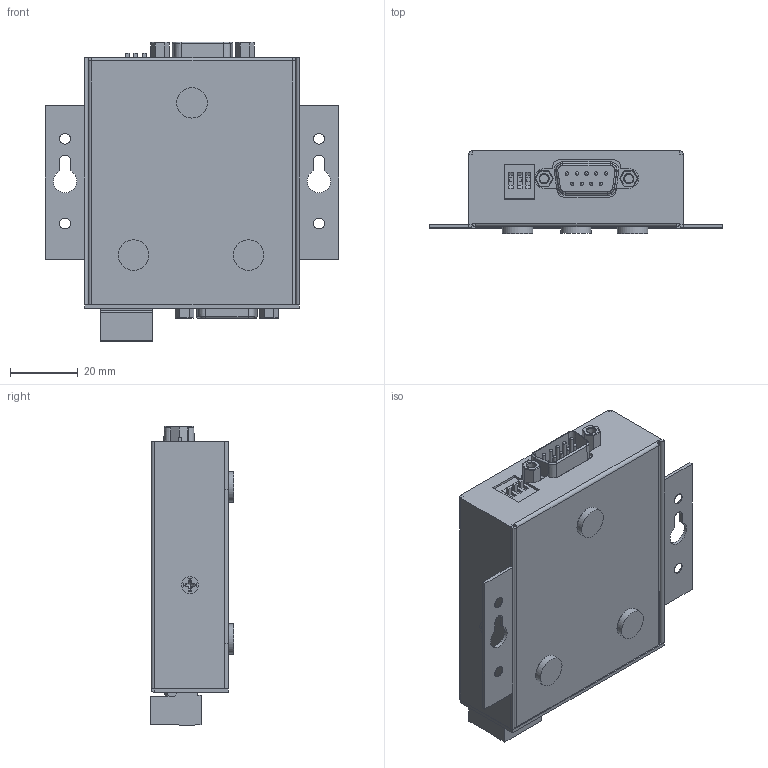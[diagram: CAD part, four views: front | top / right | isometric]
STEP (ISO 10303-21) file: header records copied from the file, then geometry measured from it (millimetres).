
FILE_DESCRIPTION(/* description */ (''),/* implementation_level */ '2;1');
FILE_NAME(/* name */ 'C:/Users/Leo Pinto/Documents/Fusion 360/CG-1P232CAN Model3D LPV1.step',/* time_stamp */ '2021-11-14T11:40:51-05:00',/* author */ (''),/* organization */ (''),/* preprocessor_version */ 'ST-DEVELOPER v18.1',/* originating_system */ 'Autodesk Translation Framework v10.10.0.1391',/* authorisation */ '');
FILE_SCHEMA (('AUTOMOTIVE_DESIGN { 1 0 10303 214 3 1 1 }'));
Products named in the file (33): CG-1P232CAN; Board; 93090A547; Top; 1801N14; Screw Terminal Block 5.08mm 2-way (1) v1; Screw Terminal Block 5.08mm 2-way (1) v1_1; Screw Terminal Block 5.08mm 2-way (1) v1_2; Component1; 3mm_LED v1; 3mm_LED; led_energy (1); led_pin.1.1.1 (1); led_pin.2.1 (1); 3mm_LED v1_1; 3mm_LED_1; led_energy (1)_1; led_pin.1.1.1 (1)_1; led_pin.2.1 (1)_1; 3mm_LED v1_2; 3mm_LED_2; led_energy (1)_2; led_energy; led_pin.1.1.1 (1)_2; led_pin.1.1.1; led_pin.2.1 (1)_2; led_pin.2.1; M3X0.5 China 120ang METRIC 18-8 SS FLAT HEAD PHIL MACHINE SCREW v2; Component22; Serial Port v1; Connector green 3 holes female v1; Connector green 3 poles Male 5.08 v1; Component34
Assembly tree (49 placements, depth 5):
  CG-1P232CAN
    Board
    93090A547  x3
    Top
    1801N14
    Screw Terminal Block 5.08mm 2-way (1) v1
      Component1  x2
    Screw Terminal Block 5.08mm 2-way (1) v1_1
      Component1  x2
    Screw Terminal Block 5.08mm 2-way (1) v1_2
      Component1  x2
    3mm_LED v1
      3mm_LED
        led_energy (1)
          led_energy
        led_pin.1.1.1 (1)
          led_pin.1.1.1
        led_pin.2.1 (1)
          led_pin.2.1
    3mm_LED v1_1
      3mm_LED_1
        led_energy (1)_1
          led_energy
        led_pin.1.1.1 (1)_1
          led_pin.1.1.1
        led_pin.2.1 (1)_1
          led_pin.2.1
    3mm_LED v1_2
      3mm_LED_2
        led_energy (1)_2
          led_energy
        led_pin.1.1.1 (1)_2
          led_pin.1.1.1
        led_pin.2.1 (1)_2
          led_pin.2.1
    M3X0.5 China 120ang METRIC 18-8 SS FLAT HEAD PHIL MACHINE SCREW v2  x2
    Component22  x3
    Serial Port v1  x2
    Connector green 3 holes female v1
    Connector green 3 poles Male 5.08 v1
    Component34
Bounding box: 86.55 x 24.64 x 88.36 mm (x, y, z)
Volume: 35545.7 mm3; surface area: 51108 mm2
Topology: 2 solids, 5 shells, 1730 faces, 4646 edges, 3013 vertices
Faces by surface type: plane 1262, cylinder 350, cone 55, torus 30, sphere 21, bspline 12
Full cylindrical faces by diameter (mm): 1 x23, 1.6 x5, 2.35 x12, 2.6 x4, 2.8 x4, 2.998 x3, 3 x20, 3.2 x4, 3.5 x5, 3.643 x3, 3.8 x5, 3.86 x2, 5.4 x3, 8.485 x3, 9 x3
Entity records: 60181 total; most frequent: CARTESIAN_POINT 15603, ORIENTED_EDGE 9248, DIRECTION 8808, EDGE_CURVE 4624, LINE 3584, VECTOR 3584, VERTEX_POINT 3013, AXIS2_PLACEMENT_3D 2612
